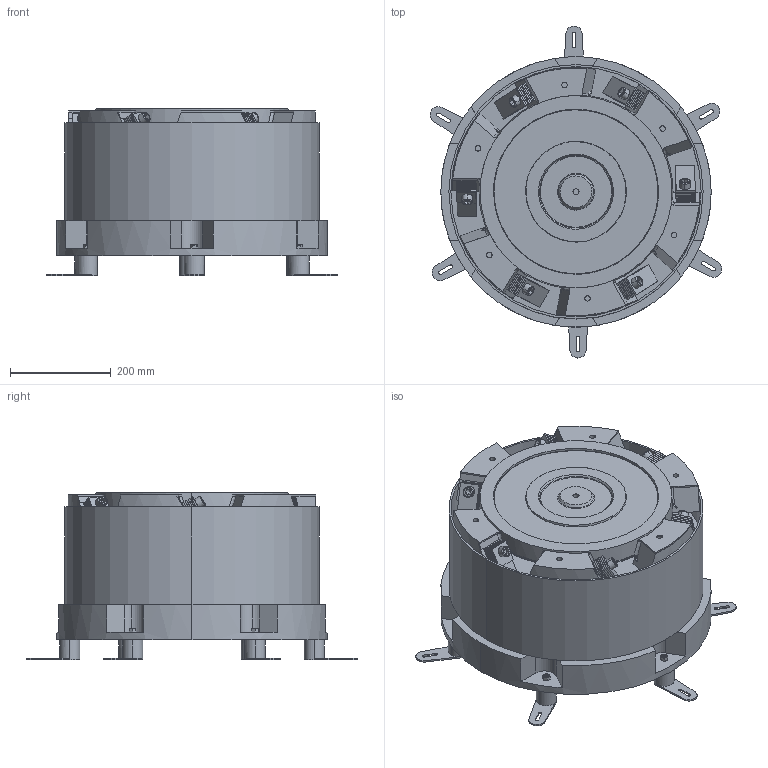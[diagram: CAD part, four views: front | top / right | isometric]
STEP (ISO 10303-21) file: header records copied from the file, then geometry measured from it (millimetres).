
FILE_DESCRIPTION (( 'STEP AP214' ), '1' );
FILE_NAME ('DE500 臏裔.STEP', '2025-07-26T02:49:20', ( '' ), ( '' ), 'SwSTEP 2.0', 'SolidWorks 2022', '' );
FILE_SCHEMA (( 'AUTOMOTIVE_DESIGN' ));
Length unit declared in the file: millimetre
Products named in the file (1): DE500  臏裔
Bounding box: 580.49 x 660.72 x 334.18 mm (x, y, z)
Volume: 38365690.8 mm3; surface area: 2658985.7 mm2
Topology: 68 solids, 68 shells, 1468 faces, 3724 edges, 2426 vertices
Faces by surface type: plane 691, cylinder 474, cone 167, bspline 136
Entity records: 56520 total; most frequent: CARTESIAN_POINT 22516, ORIENTED_EDGE 7416, DIRECTION 6064, EDGE_CURVE 3708, VERTEX_POINT 2426, AXIS2_PLACEMENT_3D 2259, EDGE_LOOP 1666, VECTOR 1546
